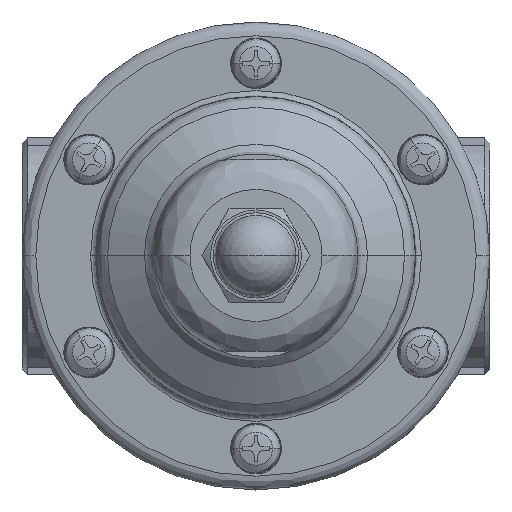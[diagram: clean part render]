
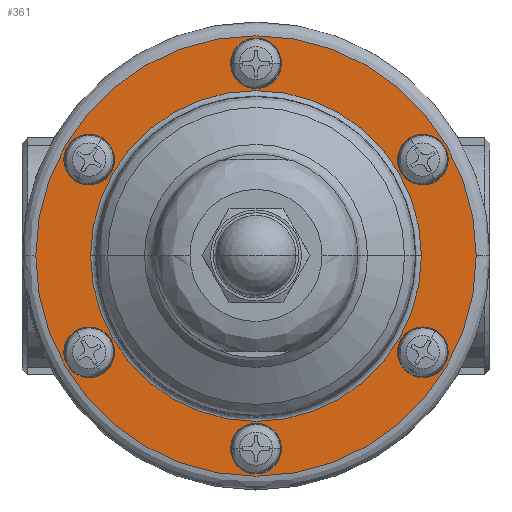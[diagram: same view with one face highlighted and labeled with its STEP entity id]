
A CAD part, top view. The second image highlights one B-rep face of the part: STEP entity #361.
In plain terms, the highlighted planar face has unit normal (0, 0, 1).
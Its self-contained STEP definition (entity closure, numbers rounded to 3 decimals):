
#361=ADVANCED_FACE('',(#888,#889,#890,#891,#892,#893,#894,#895),#887,.F.);
#887=PLANE('',#5049);
#888=FACE_OUTER_BOUND('',#5050,.T.);
#889=FACE_BOUND('',#5051,.T.);
#890=FACE_BOUND('',#5052,.T.);
#891=FACE_BOUND('',#5053,.T.);
#892=FACE_BOUND('',#5054,.T.);
#893=FACE_BOUND('',#5055,.T.);
#894=FACE_BOUND('',#5056,.T.);
#895=FACE_BOUND('',#5057,.T.);
#5046=CARTESIAN_POINT('',(90.,-79.282,1.5));
#5047=DIRECTION('',(0.,0.,-1.));
#5048=DIRECTION('',(-1.,0.,0.));
#5049=AXIS2_PLACEMENT_3D('',#5046,#5047,#5048);
#5050=EDGE_LOOP('',(#8498,#8499));
#5051=EDGE_LOOP('',(#8500,#8501));
#5052=EDGE_LOOP('',(#8502,#8503));
#5053=EDGE_LOOP('',(#8504,#8505));
#5054=EDGE_LOOP('',(#8506,#8507));
#5055=EDGE_LOOP('',(#8508,#8509));
#5056=EDGE_LOOP('',(#8510,#8511));
#5057=EDGE_LOOP('',(#8512,#8513));
#8498=ORIENTED_EDGE('',*,*,#10621,.F.);
#8499=ORIENTED_EDGE('',*,*,#10622,.F.);
#8500=ORIENTED_EDGE('',*,*,#10623,.T.);
#8501=ORIENTED_EDGE('',*,*,#10624,.T.);
#8502=ORIENTED_EDGE('',*,*,#10625,.T.);
#8503=ORIENTED_EDGE('',*,*,#10626,.T.);
#8504=ORIENTED_EDGE('',*,*,#10627,.T.);
#8505=ORIENTED_EDGE('',*,*,#10628,.T.);
#8506=ORIENTED_EDGE('',*,*,#10629,.T.);
#8507=ORIENTED_EDGE('',*,*,#10630,.T.);
#8508=ORIENTED_EDGE('',*,*,#10631,.T.);
#8509=ORIENTED_EDGE('',*,*,#10632,.T.);
#8510=ORIENTED_EDGE('',*,*,#10633,.T.);
#8511=ORIENTED_EDGE('',*,*,#10634,.T.);
#8512=ORIENTED_EDGE('',*,*,#10635,.T.);
#8513=ORIENTED_EDGE('',*,*,#10636,.T.);
#10621=EDGE_CURVE('',#12010,#12011,#12012,.T.);
#10622=EDGE_CURVE('',#12011,#12010,#12018,.T.);
#10623=EDGE_CURVE('',#12024,#12025,#12026,.T.);
#10624=EDGE_CURVE('',#12025,#12024,#12032,.T.);
#10625=EDGE_CURVE('',#12038,#12039,#12040,.T.);
#10626=EDGE_CURVE('',#12039,#12038,#12046,.T.);
#10627=EDGE_CURVE('',#12052,#12053,#12054,.T.);
#10628=EDGE_CURVE('',#12053,#12052,#12060,.T.);
#10629=EDGE_CURVE('',#12066,#12067,#12068,.T.);
#10630=EDGE_CURVE('',#12067,#12066,#12074,.T.);
#10631=EDGE_CURVE('',#12080,#12081,#12082,.T.);
#10632=EDGE_CURVE('',#12081,#12080,#12088,.T.);
#10633=EDGE_CURVE('',#12094,#12095,#12096,.T.);
#10634=EDGE_CURVE('',#12095,#12094,#12102,.T.);
#10635=EDGE_CURVE('',#12108,#12109,#12110,.T.);
#10636=EDGE_CURVE('',#12109,#12108,#12116,.T.);
#12010=VERTEX_POINT('',#18984);
#12011=VERTEX_POINT('',#18985);
#12012=CIRCLE('',#18989,40.);
#12018=CIRCLE('',#18993,40.);
#12024=VERTEX_POINT('',#18994);
#12025=VERTEX_POINT('',#18995);
#12026=CIRCLE('',#18999,2.75);
#12032=CIRCLE('',#19003,2.75);
#12038=VERTEX_POINT('',#19004);
#12039=VERTEX_POINT('',#19005);
#12040=CIRCLE('',#19009,2.75);
#12046=CIRCLE('',#19013,2.75);
#12052=VERTEX_POINT('',#19014);
#12053=VERTEX_POINT('',#19015);
#12054=CIRCLE('',#19019,2.75);
#12060=CIRCLE('',#19023,2.75);
#12066=VERTEX_POINT('',#19024);
#12067=VERTEX_POINT('',#19025);
#12068=CIRCLE('',#19029,2.75);
#12074=CIRCLE('',#19033,2.75);
#12080=VERTEX_POINT('',#19034);
#12081=VERTEX_POINT('',#19035);
#12082=CIRCLE('',#19039,2.75);
#12088=CIRCLE('',#19043,2.75);
#12094=VERTEX_POINT('',#19044);
#12095=VERTEX_POINT('',#19045);
#12096=CIRCLE('',#19049,2.75);
#12102=CIRCLE('',#19053,2.75);
#12108=VERTEX_POINT('',#19054);
#12109=VERTEX_POINT('',#19055);
#12110=CIRCLE('',#19059,30.042);
#12116=CIRCLE('',#19063,30.042);
#18984=CARTESIAN_POINT('',(40.,0.,1.5));
#18985=CARTESIAN_POINT('',(-40.,0.,1.5));
#18986=CARTESIAN_POINT('',(0.,0.,1.5));
#18987=DIRECTION('',(0.,0.,-1.));
#18988=DIRECTION('',(-1.,0.,0.));
#18989=AXIS2_PLACEMENT_3D('',#18986,#18987,#18988);
#18990=CARTESIAN_POINT('',(0.,0.,1.5));
#18991=DIRECTION('',(0.,0.,-1.));
#18992=DIRECTION('',(-1.,0.,0.));
#18993=AXIS2_PLACEMENT_3D('',#18990,#18991,#18992);
#18994=CARTESIAN_POINT('',(-27.777,-17.625,1.5));
#18995=CARTESIAN_POINT('',(-33.277,-17.625,1.5));
#18996=CARTESIAN_POINT('',(-30.527,-17.625,1.5));
#18997=DIRECTION('',(0.,0.,-1.));
#18998=DIRECTION('',(1.,0.,0.));
#18999=AXIS2_PLACEMENT_3D('',#18996,#18997,#18998);
#19000=CARTESIAN_POINT('',(-30.527,-17.625,1.5));
#19001=DIRECTION('',(0.,0.,-1.));
#19002=DIRECTION('',(1.,0.,0.));
#19003=AXIS2_PLACEMENT_3D('',#19000,#19001,#19002);
#19004=CARTESIAN_POINT('',(-27.777,17.625,1.5));
#19005=CARTESIAN_POINT('',(-33.277,17.625,1.5));
#19006=CARTESIAN_POINT('',(-30.527,17.625,1.5));
#19007=DIRECTION('',(0.,0.,-1.));
#19008=DIRECTION('',(1.,0.,0.));
#19009=AXIS2_PLACEMENT_3D('',#19006,#19007,#19008);
#19010=CARTESIAN_POINT('',(-30.527,17.625,1.5));
#19011=DIRECTION('',(0.,0.,-1.));
#19012=DIRECTION('',(1.,0.,0.));
#19013=AXIS2_PLACEMENT_3D('',#19010,#19011,#19012);
#19014=CARTESIAN_POINT('',(2.75,35.25,1.5));
#19015=CARTESIAN_POINT('',(-2.75,35.25,1.5));
#19016=CARTESIAN_POINT('',(0.,35.25,1.5));
#19017=DIRECTION('',(0.,0.,-1.));
#19018=DIRECTION('',(1.,0.,0.));
#19019=AXIS2_PLACEMENT_3D('',#19016,#19017,#19018);
#19020=CARTESIAN_POINT('',(0.,35.25,1.5));
#19021=DIRECTION('',(0.,0.,-1.));
#19022=DIRECTION('',(1.,0.,0.));
#19023=AXIS2_PLACEMENT_3D('',#19020,#19021,#19022);
#19024=CARTESIAN_POINT('',(33.277,17.625,1.5));
#19025=CARTESIAN_POINT('',(27.777,17.625,1.5));
#19026=CARTESIAN_POINT('',(30.527,17.625,1.5));
#19027=DIRECTION('',(0.,0.,-1.));
#19028=DIRECTION('',(1.,0.,0.));
#19029=AXIS2_PLACEMENT_3D('',#19026,#19027,#19028);
#19030=CARTESIAN_POINT('',(30.527,17.625,1.5));
#19031=DIRECTION('',(0.,0.,-1.));
#19032=DIRECTION('',(1.,0.,0.));
#19033=AXIS2_PLACEMENT_3D('',#19030,#19031,#19032);
#19034=CARTESIAN_POINT('',(33.277,-17.625,1.5));
#19035=CARTESIAN_POINT('',(27.777,-17.625,1.5));
#19036=CARTESIAN_POINT('',(30.527,-17.625,1.5));
#19037=DIRECTION('',(0.,0.,-1.));
#19038=DIRECTION('',(1.,0.,0.));
#19039=AXIS2_PLACEMENT_3D('',#19036,#19037,#19038);
#19040=CARTESIAN_POINT('',(30.527,-17.625,1.5));
#19041=DIRECTION('',(0.,0.,-1.));
#19042=DIRECTION('',(1.,0.,0.));
#19043=AXIS2_PLACEMENT_3D('',#19040,#19041,#19042);
#19044=CARTESIAN_POINT('',(2.75,-35.25,1.5));
#19045=CARTESIAN_POINT('',(-2.75,-35.25,1.5));
#19046=CARTESIAN_POINT('',(0.,-35.25,1.5));
#19047=DIRECTION('',(0.,0.,-1.));
#19048=DIRECTION('',(1.,0.,0.));
#19049=AXIS2_PLACEMENT_3D('',#19046,#19047,#19048);
#19050=CARTESIAN_POINT('',(0.,-35.25,1.5));
#19051=DIRECTION('',(0.,0.,-1.));
#19052=DIRECTION('',(1.,0.,0.));
#19053=AXIS2_PLACEMENT_3D('',#19050,#19051,#19052);
#19054=CARTESIAN_POINT('',(-30.042,0.,1.5));
#19055=CARTESIAN_POINT('',(30.042,0.,1.5));
#19056=CARTESIAN_POINT('',(0.,0.,1.5));
#19057=DIRECTION('',(0.,0.,-1.));
#19058=DIRECTION('',(-1.,0.,0.));
#19059=AXIS2_PLACEMENT_3D('',#19056,#19057,#19058);
#19060=CARTESIAN_POINT('',(0.,0.,1.5));
#19061=DIRECTION('',(0.,0.,-1.));
#19062=DIRECTION('',(-1.,0.,0.));
#19063=AXIS2_PLACEMENT_3D('',#19060,#19061,#19062);
